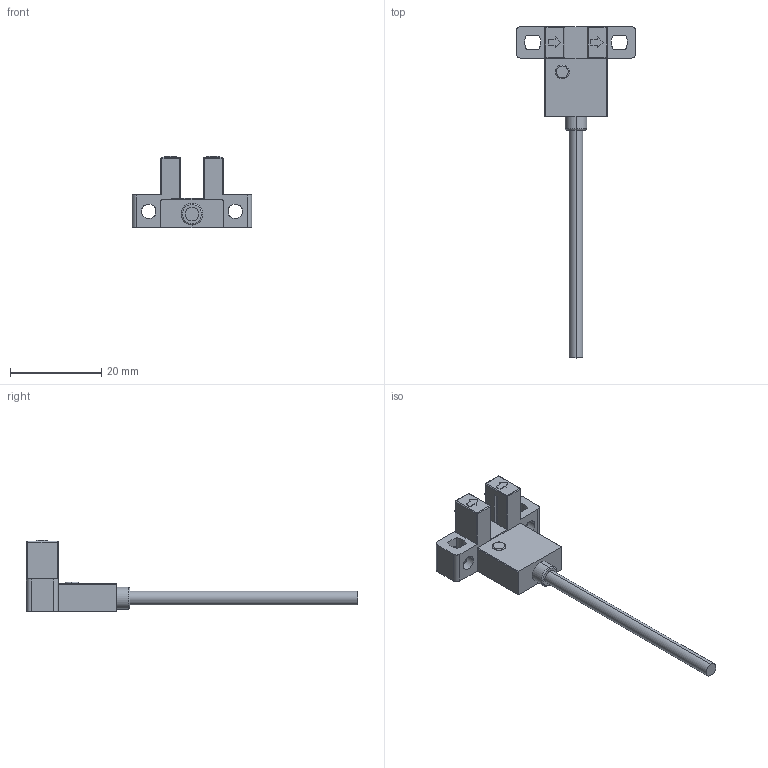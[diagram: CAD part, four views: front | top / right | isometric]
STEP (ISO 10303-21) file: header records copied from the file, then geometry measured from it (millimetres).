
FILE_DESCRIPTION (( 'STEP AP203' ), '1' );
FILE_NAME ('GE-SX671A.STEP', '2018-06-07T09:37:44', ( '' ), ( '' ), 'SwSTEP 2.0', 'SolidWorks 2016', '' );
FILE_SCHEMA (( 'CONFIG_CONTROL_DESIGN' ));
Length unit declared in the file: millimetre
Products named in the file (1): GE-SX671A
Bounding box: 26.2 x 72.8 x 15.7 mm (x, y, z)
Volume: 3028 mm3; surface area: 2388.5 mm2
Topology: 3 solids, 3 shells, 127 faces, 336 edges, 208 vertices
Faces by surface type: plane 73, cylinder 42, sphere 8, torus 4
Entity records: 4015 total; most frequent: CARTESIAN_POINT 776, DIRECTION 660, ORIENTED_EDGE 656, EDGE_CURVE 328, LINE 220, VECTOR 220, AXIS2_PLACEMENT_3D 220, VERTEX_POINT 208
